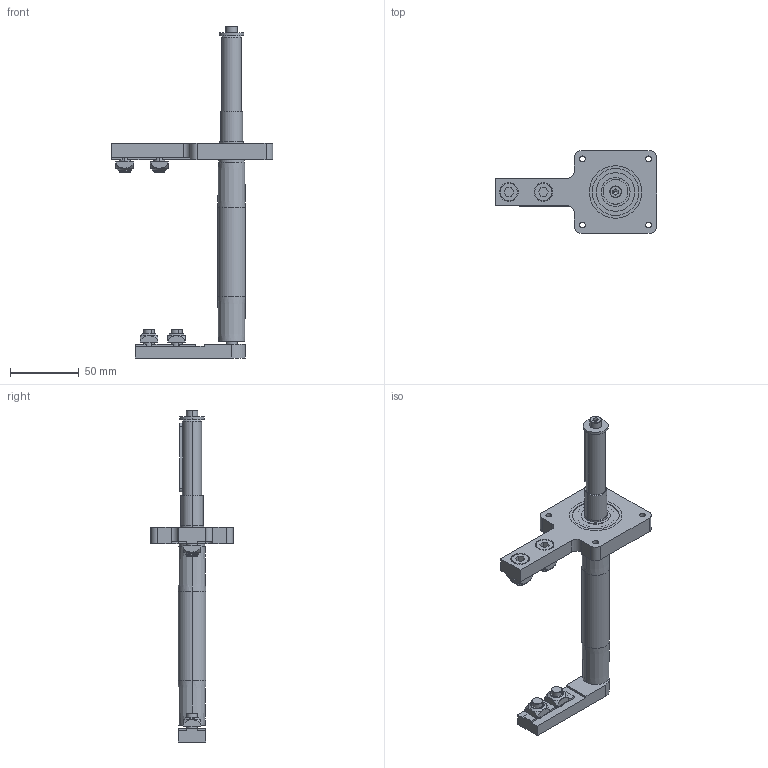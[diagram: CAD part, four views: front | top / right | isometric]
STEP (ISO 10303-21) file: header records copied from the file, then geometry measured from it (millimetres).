
FILE_DESCRIPTION (( 'STEP AP214' ), '1' );
FILE_NAME ('084.020.KD.30.110.STEP', '2021-02-05T13:42:11', ( '' ), ( '' ), 'SwSTEP 2.0', 'SolidWorks 2018', '' );
FILE_SCHEMA (( 'AUTOMOTIVE_DESIGN' ));
Length unit declared in the file: millimetre
Products named in the file (14): 084.800.007; 084.800.008; CHIAVETTE_A 5x5x50 UNI 6604-69; 084.301.000 VITI ALUSIC_084.301.002; 084.302.000 DADI ALUSIC 13x13-1_084.302.004; ISO 4762 M5 x 16 --- 16S_ISO 4762 M5 x 16 --- 16S; 084.800.001-1; Washer ISO 7094 - 5_Washer ISO 7094 - 5; 084.800.012; 084.802.016_084.802.016; 084.800.022.110; 084.800.002; 084.020.KD.30.110; circlip for shafts normal_din_PreviewCfg
Assembly tree (20 placements, depth 2):
  084.020.KD.30.110
    084.800.022.110
    084.800.001-1
    084.802.016_084.802.016
    084.301.000 VITI ALUSIC_084.301.002  x4
    084.302.000 DADI ALUSIC 13x13-1_084.302.004  x4
    084.800.012  x2
    084.800.008
    084.800.002
    084.800.007
    Washer ISO 7094 - 5_Washer ISO 7094 - 5
    ISO 4762 M5 x 16 --- 16S_ISO 4762 M5 x 16 --- 16S
    CHIAVETTE_A 5x5x50 UNI 6604-69
    circlip for shafts normal_din_PreviewCfg
Bounding box: 117.5 x 60 x 241.1 mm (x, y, z)
Volume: 121923.7 mm3; surface area: 56859.5 mm2
Topology: 21 solids, 22 shells, 595 faces, 1440 edges, 910 vertices
Faces by surface type: cylinder 210, plane 181, cone 106, torus 78, bspline 16, sphere 4
Entity records: 14122 total; most frequent: CARTESIAN_POINT 2642, DIRECTION 2485, ORIENTED_EDGE 2102, EDGE_CURVE 1051, AXIS2_PLACEMENT_3D 1016, VERTEX_POINT 667, CIRCLE 562, EDGE_LOOP 492
